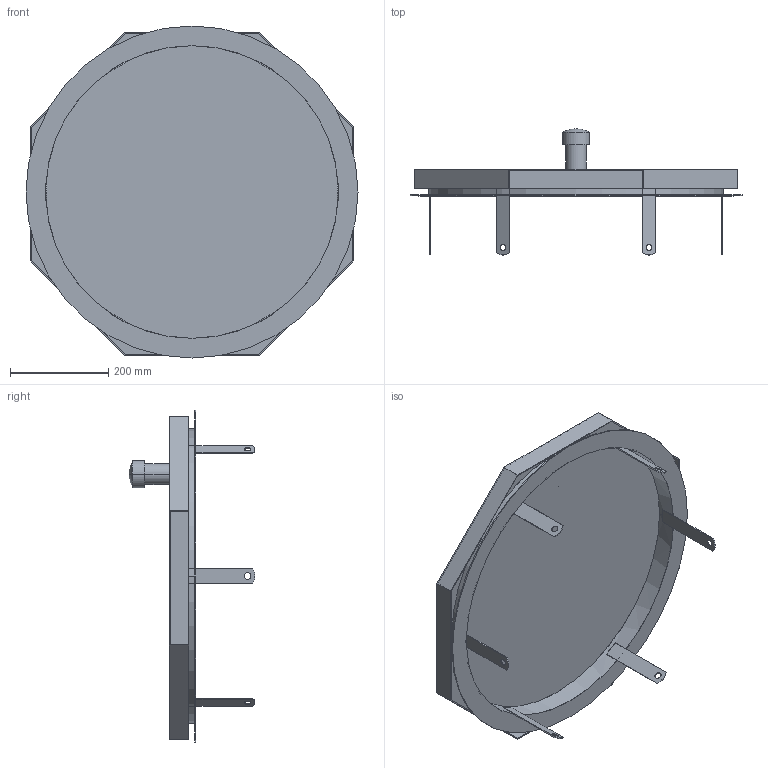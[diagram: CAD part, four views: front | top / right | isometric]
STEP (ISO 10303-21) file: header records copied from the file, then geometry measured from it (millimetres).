
FILE_DESCRIPTION((''),'2;1');
FILE_NAME('017_000107','2018-09-06T',('set'),('HUBER SE'),'PRO/ENGINEER BY PARAMETRIC TECHNOLOGY CORPORATION, 2017170','PRO/ENGINEER BY PARAMETRIC TECHNOLOGY CORPORATION, 2017170','');
FILE_SCHEMA(('AUTOMOTIVE_DESIGN { 1 0 10303 214 1 1 1 1 }'));
Length unit declared in the file: millimetre
Products named in the file (1): 017_000107
Bounding box: 675 x 256 x 675 mm (x, y, z)
Volume: 1369996.4 mm3; surface area: 1251320.1 mm2
Topology: 2 solids, 2 shells, 83 faces, 226 edges, 149 vertices
Faces by surface type: plane 53, cylinder 28, sphere 2
Entity records: 3249 total; most frequent: DIRECTION 473, CARTESIAN_POINT 467, ORIENTED_EDGE 448, EDGE_CURVE 224, AXIS2_PLACEMENT_3D 158, VECTOR 154, LINE 154, VERTEX_POINT 149
